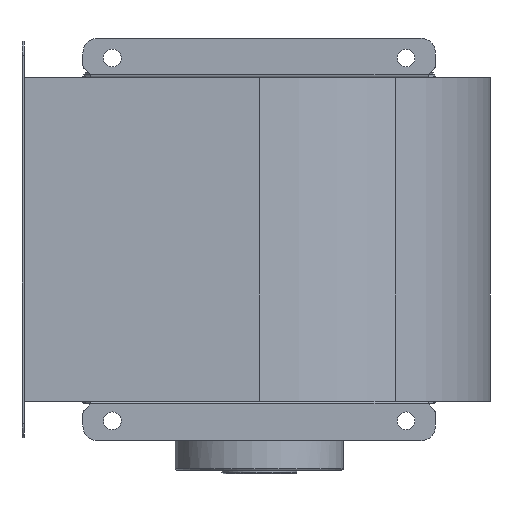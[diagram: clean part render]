
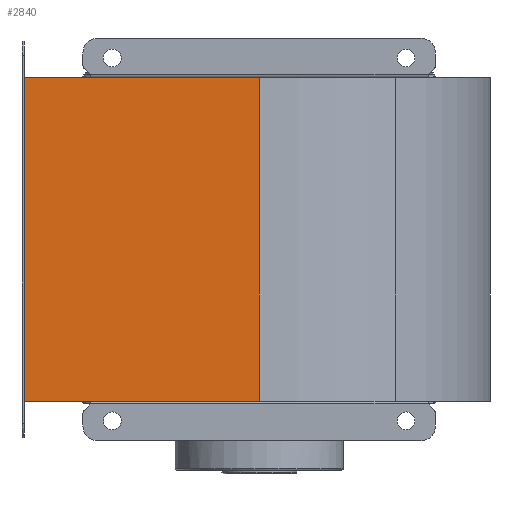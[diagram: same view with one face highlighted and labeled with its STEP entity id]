
A CAD part, front view. The second image highlights one B-rep face of the part: STEP entity #2840.
In plain terms, the highlighted planar face has unit normal (0, -1, 0).
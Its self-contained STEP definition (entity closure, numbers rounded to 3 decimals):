
#506=ORIENTED_EDGE('',*,*,#1134,.T.);
#507=ORIENTED_EDGE('',*,*,#1164,.F.);
#508=ORIENTED_EDGE('',*,*,#1165,.F.);
#509=ORIENTED_EDGE('',*,*,#1156,.T.);
#1134=EDGE_CURVE('',#1472,#1473,#1702,.T.);
#1156=EDGE_CURVE('',#1491,#1472,#1714,.T.);
#1164=EDGE_CURVE('',#1496,#1473,#1718,.T.);
#1165=EDGE_CURVE('',#1491,#1496,#1719,.T.);
#1472=VERTEX_POINT('',#4591);
#1473=VERTEX_POINT('',#4592);
#1491=VERTEX_POINT('',#4654);
#1496=VERTEX_POINT('',#4668);
#1702=LINE('',#4590,#1834);
#1714=LINE('',#4653,#1846);
#1718=LINE('',#4667,#1850);
#1719=LINE('',#4669,#1851);
#1834=VECTOR('',#3648,1000.);
#1846=VECTOR('',#3684,1000.);
#1850=VECTOR('',#3698,1000.);
#1851=VECTOR('',#3699,1000.);
#2026=EDGE_LOOP('',(#506,#507,#508,#509));
#2412=FACE_BOUND('',#2026,.T.);
#2732=PLANE('',#3166);
#2840=ADVANCED_FACE('',(#2412),#2732,.F.);
#3166=AXIS2_PLACEMENT_3D('',#4666,#3696,#3697);
#3648=DIRECTION('',(1.,0.,0.));
#3684=DIRECTION('',(0.,0.,-1.));
#3696=DIRECTION('',(0.,1.,0.));
#3697=DIRECTION('',(0.,0.,1.));
#3698=DIRECTION('',(0.,0.,-1.));
#3699=DIRECTION('',(1.,0.,0.));
#4590=CARTESIAN_POINT('',(-160.,-175.,-110.));
#4591=CARTESIAN_POINT('',(-160.,-175.,-110.));
#4592=CARTESIAN_POINT('',(0.,-175.,-110.));
#4653=CARTESIAN_POINT('',(-160.,-175.,110.));
#4654=CARTESIAN_POINT('',(-160.,-175.,110.));
#4666=CARTESIAN_POINT('',(-160.,-175.,110.));
#4667=CARTESIAN_POINT('',(0.,-175.,110.));
#4668=CARTESIAN_POINT('',(0.,-175.,110.));
#4669=CARTESIAN_POINT('',(-160.,-175.,110.));
